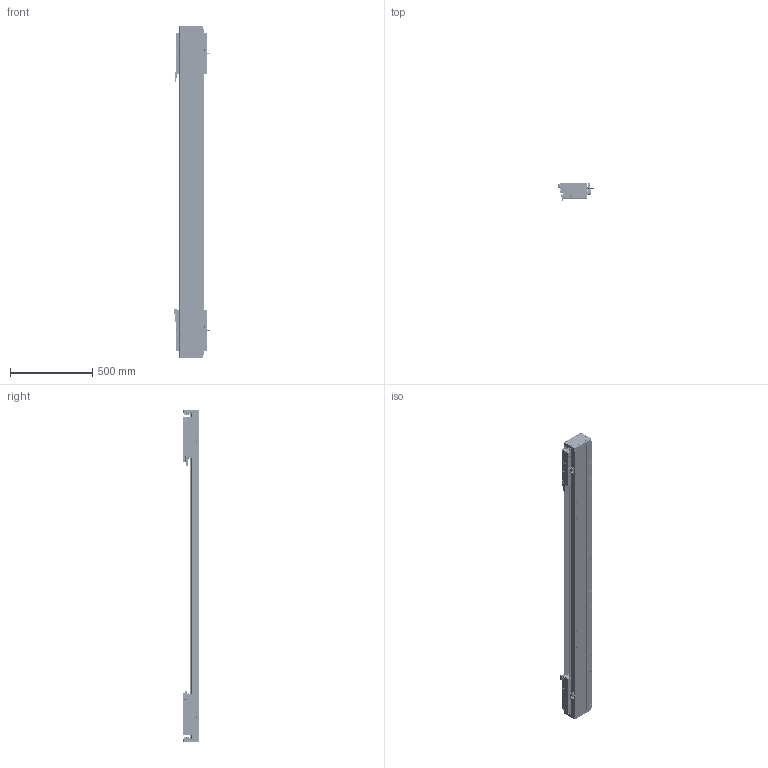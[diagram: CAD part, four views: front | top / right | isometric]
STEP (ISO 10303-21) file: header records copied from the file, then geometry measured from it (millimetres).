
FILE_DESCRIPTION (( 'STEP AP203' ), '1' );
FILE_NAME ('DA-C145-2-C3-T1400-C010-0.2 眻盄萇儂.STEP', '2025-08-13T10:20:27', ( '' ), ( '' ), 'SwSTEP 2.0', 'SolidWorks 2019', '' );
FILE_SCHEMA (( 'CONFIG_CONTROL_DESIGN' ));
Length unit declared in the file: millimetre
Products named in the file (38): 葩璃 鞠褒情蹟譫 M3^DA-C145-2-C3-T-C010-0.2; 复件 纯铜油杯 6x6mm^CU145-W 滚珠滑台; 复件 半圆头内六角螺钉 M3×6^CU145-W 滚珠滑台; CU145-W 幗紩賑怢-1; 葩璃 DA145-C3-DP-A-00 菜えA^CU145-W 幗紩賑怢; 葩璃 XD-U-02L 棠掑喜^DA-C145-2-C3-T-C010-0.2; 葩璃 DA145-C3-DP-B-00 菜えB^CU145-W 幗紩賑怢; IU-CU145-L 菁釱絳寢; 复件 DA145-C3-YB-B-00 压板B^CU145-W 滚珠滑台; DKW-GYP-ZJ-00 笢潔嫖萇覜茼え; 复件 DA145-DG 钢带端盖^复件 CU145 钢带组件_DA-C145-2-C3-T-C010-0.2; 复件 DA145-C3-YB-A-00 压板A^CU145-W 滚珠滑台; 葩璃 DMA-010-0.2 黍杅芛^DA-C145-2-C3-T-C010-0.2; 复件 DA145 钢带^复件 CU145 钢带组件_DA-C145-2-C3-T-C010-0.2; 葩璃 CKM03-W060-C1C2-TP-0.2^DA-C145-2-C3-T-C010-0.2; 复件 DA95-DB-00  挡板^CU145-W 滚珠滑台; DA-C145-2-C3-T1400-C010-0.2 眻盄萇儂; IU-CU145-L-00 菁釱(L1980); 复件 DA145-C3-DK-00 挡块^CU145-W 滚珠滑台; 葩璃 DA95-HXJ-00 遣喳砎蝶^DA-C145-2-C3-T-C010-0.2; DKW-KGZ-ZJ-00 中间光电开关支架; 复件 内六角平端紧定螺钉 GB.T77-2000 M5×10^CU145-W 滚珠滑台; 复件 DA146 钢带拉块^复件 CU145 钢带组件_DA-C145-2-C3-T-C010-0.2; DKW168-HXJ-ZJ-00 笢潔滅袉砎蝶; 复件 DA145-GYP-00 光电感应片^DA-C145-2-C3-T-C010-0.2; 复件 DA146 钢带垫块^复件 CU145 钢带组件_DA-C145-2-C3-T-C010-0.2; TAY01-M8; 葩璃 PM-Y65^DA-C145-2-C3-T-C010-0.2; 复件 DA95-HK-GT-00 滑块钢轨^CU145-W-00 一体化滑动台板; CU145-W-00 珨极趙賑雄怢啣; 葩璃 PM-T45^DA-C145-2-C3-T-C010-0.2; 66245-CU145-HT-W-00 賑雄怢啣(3D芞祧)(00); 葩璃 CU145 詩湍郪璃^DA-C145-2-C3-T-C010-0.2; 葩璃 CKMA01-W060-TRL^DA-C145-2-C3-T-C010-0.2; CU145-W 幗紩賑怢; CU145-W-00 珨极趙賑雄怢啣-1; 葩璃 DA95-GT-T-00^IU-CU145-L 菁釱絳寢; 复件 DA95-MFP-01 密封片^CU145-W 滚珠滑台
Assembly tree (180 placements, depth 4):
  DA-C145-2-C3-T1400-C010-0.2 眻盄萇儂
    IU-CU145-L 菁釱絳寢
      IU-CU145-L-00 菁釱(L1980)
      葩璃 DA95-GT-T-00^IU-CU145-L 菁釱絳寢  x4
    葩璃 CU145 詩湍郪璃^DA-C145-2-C3-T-C010-0.2
      复件 DA145-DG 钢带端盖^复件 CU145 钢带组件_DA-C145-2-C3-T-C010-0.2  x2
      复件 DA146 钢带拉块^复件 CU145 钢带组件_DA-C145-2-C3-T-C010-0.2  x2
      复件 DA146 钢带垫块^复件 CU145 钢带组件_DA-C145-2-C3-T-C010-0.2  x2
      复件 DA145 钢带^复件 CU145 钢带组件_DA-C145-2-C3-T-C010-0.2
    CU145-W 幗紩賑怢
      CU145-W-00 珨极趙賑雄怢啣
        66245-CU145-HT-W-00 賑雄怢啣(3D芞祧)(00)
        复件 DA95-HK-GT-00 滑块钢轨^CU145-W-00 一体化滑动台板  x8
      复件 DA95-MFP-01 密封片^CU145-W 滚珠滑台  x8
      复件 DA95-DB-00  挡板^CU145-W 滚珠滑台  x8
      复件 内六角平端紧定螺钉 GB.T77-2000 M5×10^CU145-W 滚珠滑台  x4
      复件 纯铜油杯 6x6mm^CU145-W 滚珠滑台  x4
      复件 半圆头内六角螺钉 M3×6^CU145-W 滚珠滑台  x16
      复件 DA145-C3-DK-00 挡块^CU145-W 滚珠滑台  x4
      葩璃 DA145-C3-DP-B-00 菜えB^CU145-W 幗紩賑怢  x2
      复件 DA145-C3-YB-B-00 压板B^CU145-W 滚珠滑台  x2
      葩璃 DA145-C3-DP-A-00 菜えA^CU145-W 幗紩賑怢  x3
      复件 DA145-C3-YB-A-00 压板A^CU145-W 滚珠滑台  x3
      TAY01-M8  x4
    CU145-W 幗紩賑怢-1
      CU145-W-00 珨极趙賑雄怢啣-1
        66245-CU145-HT-W-00 賑雄怢啣(3D芞祧)(00)
        复件 DA95-HK-GT-00 滑块钢轨^CU145-W-00 一体化滑动台板  x8
      复件 DA95-MFP-01 密封片^CU145-W 滚珠滑台  x8
      复件 DA95-DB-00  挡板^CU145-W 滚珠滑台  x8
      复件 内六角平端紧定螺钉 GB.T77-2000 M5×10^CU145-W 滚珠滑台  x4
      复件 纯铜油杯 6x6mm^CU145-W 滚珠滑台  x4
      复件 半圆头内六角螺钉 M3×6^CU145-W 滚珠滑台  x16
      复件 DA145-C3-DK-00 挡块^CU145-W 滚珠滑台  x4
      葩璃 DA145-C3-DP-B-00 菜えB^CU145-W 幗紩賑怢  x2
      复件 DA145-C3-YB-B-00 压板B^CU145-W 滚珠滑台  x2
      葩璃 DA145-C3-DP-A-00 菜えA^CU145-W 幗紩賑怢  x3
      复件 DA145-C3-YB-A-00 压板A^CU145-W 滚珠滑台  x3
      TAY01-M8  x4
    葩璃 CKMA01-W060-TRL^DA-C145-2-C3-T-C010-0.2
    葩璃 PM-T45^DA-C145-2-C3-T-C010-0.2  x4
    葩璃 XD-U-02L 棠掑喜^DA-C145-2-C3-T-C010-0.2
    葩璃 DA95-HXJ-00 遣喳砎蝶^DA-C145-2-C3-T-C010-0.2  x4
    葩璃 CKM03-W060-C1C2-TP-0.2^DA-C145-2-C3-T-C010-0.2  x2
    葩璃 DMA-010-0.2 黍杅芛^DA-C145-2-C3-T-C010-0.2  x2
    复件 DA145-GYP-00 光电感应片^DA-C145-2-C3-T-C010-0.2  x2
    DKW-GYP-ZJ-00 笢潔嫖萇覜茼え
    DKW-KGZ-ZJ-00 中间光电开关支架
    葩璃 PM-Y65^DA-C145-2-C3-T-C010-0.2
    葩璃 鞠褒情蹟譫 M3^DA-C145-2-C3-T-C010-0.2  x8
    DKW168-HXJ-ZJ-00 笢潔滅袉砎蝶
Bounding box: 213.7 x 108.45 x 2016 mm (x, y, z)
Volume: 11934429.9 mm3; surface area: 3659681 mm2
Topology: 175 solids, 239 shells, 7338 faces, 19515 edges, 12029 vertices
Faces by surface type: cylinder 3057, plane 2941, cone 1184, torus 140, sphere 8, bspline 8
Entity records: 126442 total; most frequent: CARTESIAN_POINT 34448, ORIENTED_EDGE 17716, DIRECTION 17299, EDGE_CURVE 8858, AXIS2_PLACEMENT_3D 6339, VERTEX_POINT 5728, VECTOR 4621, LINE 4621
